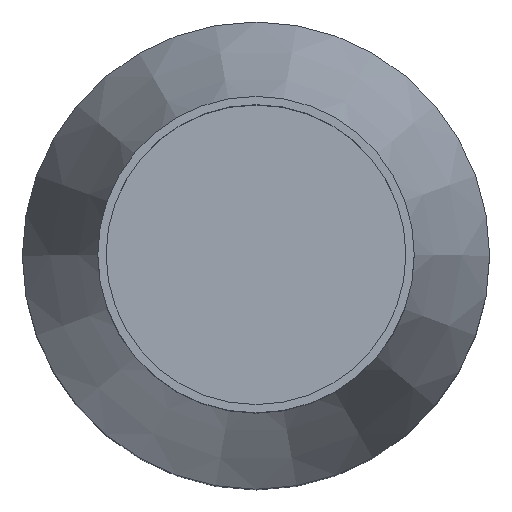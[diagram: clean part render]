
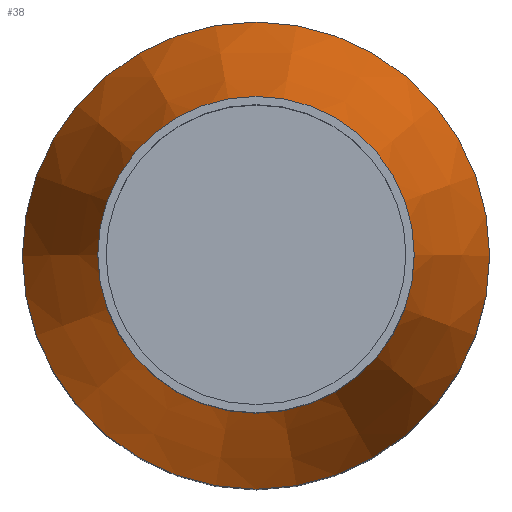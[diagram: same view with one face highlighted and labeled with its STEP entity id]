
A CAD part, top view. The second image highlights one B-rep face of the part: STEP entity #38.
In plain terms, the highlighted conical face has half-angle 15.8 degrees and reference radius 38 mm.
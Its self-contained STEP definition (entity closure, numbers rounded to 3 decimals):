
#38 = ADVANCED_FACE( '', ( #79, #80 ), #81, .T. );
#79 = FACE_BOUND( '', #124, .T. );
#80 = FACE_OUTER_BOUND( '', #125, .T. );
#81 = CONICAL_SURFACE( '', #126, 38., 0.276 );
#124 = EDGE_LOOP( '', ( #167 ) );
#125 = EDGE_LOOP( '', ( #168 ) );
#126 = AXIS2_PLACEMENT_3D( '', #169, #170, #171 );
#167 = ORIENTED_EDGE( '', *, *, #219, .F. );
#168 = ORIENTED_EDGE( '', *, *, #214, .F. );
#169 = CARTESIAN_POINT( '', ( 0., 0., 74.11 ) );
#170 = DIRECTION( '', ( 0., 0., -1. ) );
#171 = DIRECTION( '', ( -1., 0., 0. ) );
#214 = EDGE_CURVE( '', #234, #234, #235, .T. );
#219 = EDGE_CURVE( '', #242, #242, #243, .F. );
#234 = VERTEX_POINT( '', #262 );
#235 = CIRCLE( '', #263, 84.15 );
#242 = VERTEX_POINT( '', #270 );
#243 = CIRCLE( '', #271, 54. );
#262 = CARTESIAN_POINT( '', ( -84.15, 0., -88.981 ) );
#263 = AXIS2_PLACEMENT_3D( '', #290, #291, #292 );
#270 = CARTESIAN_POINT( '', ( -54., 0., 17.567 ) );
#271 = AXIS2_PLACEMENT_3D( '', #299, #300, #301 );
#290 = CARTESIAN_POINT( '', ( 0., 0., -88.981 ) );
#291 = DIRECTION( '', ( 0., 0., -1. ) );
#292 = DIRECTION( '', ( -1., 0., 0. ) );
#299 = CARTESIAN_POINT( '', ( 0., 0., 17.567 ) );
#300 = DIRECTION( '', ( 0., 0., -1. ) );
#301 = DIRECTION( '', ( -1., 0., 0. ) );
